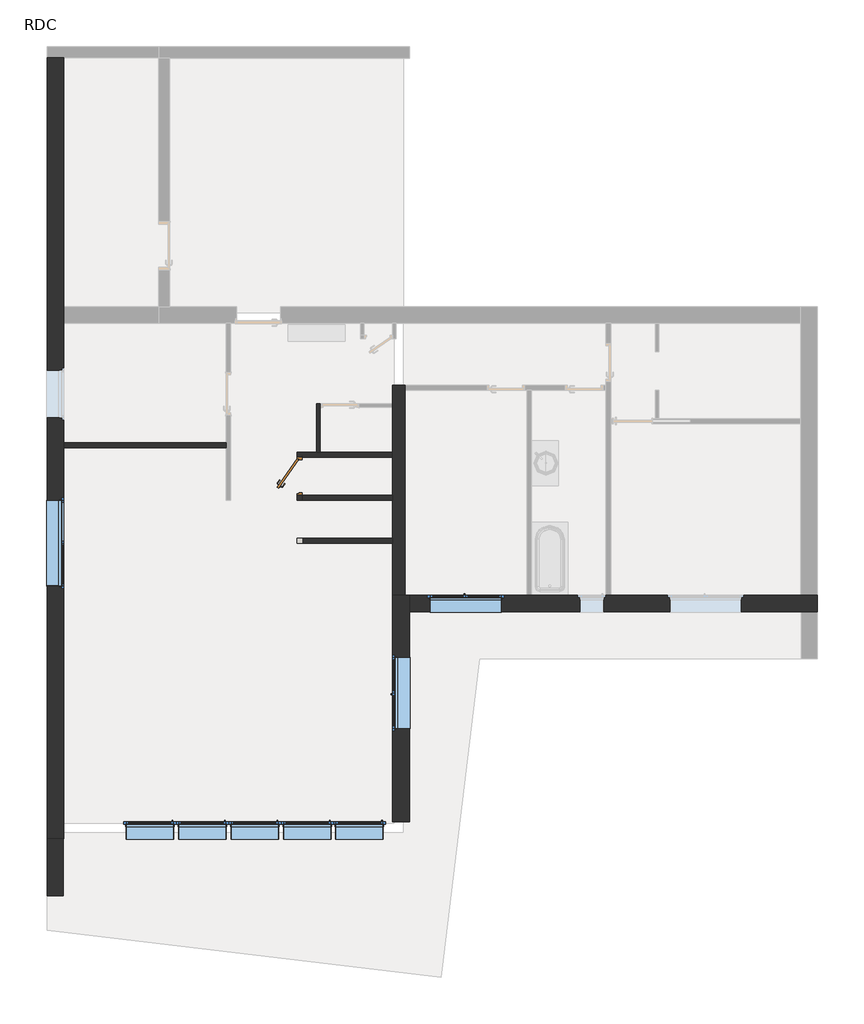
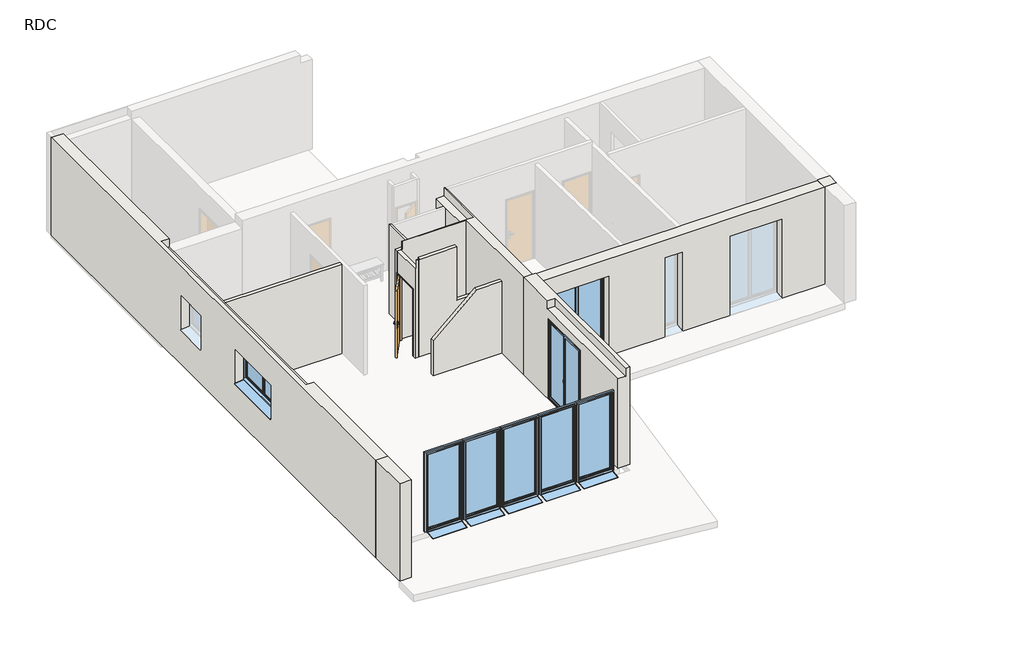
# One storey, part 1 of 2: 11 walls, 8 windows, 1 door.
"""IFC4 building model written with IfcOpenShell, lengths in millimetres."""

from ifc_helpers import new_model, si_unit, frame, origin, origin_with_axes, place, context, project, spatial, polyline, outline, extrude, faceted_brep, transform, mapped, element, save
from components import int_simple_pp_0_73m_x_2_04m_0155da5d, window_1_00m_x_2_40m_46732dcd, window_1_50m_x_2_40m_e69f112c, window_1_80m_x_1_00m_00121215

model = new_model("IFC4")

# Units and contexts
model_context = context("Model", 3, world=origin())
ifc_project = project(units=[si_unit("LENGTHUNIT", "METRE", prefix="MILLI")], contexts=[model_context])

# Site, building, storey
site = spatial("IfcSite", under=ifc_project)
building = spatial("IfcBuilding", under=site)
storey = spatial("IfcBuildingStorey", under=building, Name="RDC", Elevation=0.0)

# Door
placement = place(None, origin())
int_simple_pp_0_73m_x_2_04m_shape = int_simple_pp_0_73m_x_2_04m_0155da5d(model_context)
element("IfcDoor", 1, ObjectType="Int. Simple : PP (0.73m x 2.04m)", at=placement, inside=storey, context=model_context, shape_type="MappedRepresentation", body=[
    mapped(int_simple_pp_0_73m_x_2_04m_shape, transform((-2669.1256089, -1110.1038978, 0.0), x_axis=(0.0, 1.0, 0.0), y_axis=(-1.0, 0.0, 0.0), z_axis=(0.0, 0.0, 1.0))),
])

# Walls
element("IfcWall", 2, ObjectType="Ext. Bardage Métal + Isolant + Béton + Finition", at=placement, inside=storey, context=model_context, shape_type="Brep", body=[
    faceted_brep([(-7956.697342, 7624.9574199, 0.0), (-7956.697342, -8735.0425801, 0.0), (-7956.697342, -8735.0425801, 3000.0), (-7956.697342, 7624.9574199, 3000.0), (-7956.697342, 79.9267611, 2100.0), (-7956.697342, 79.9267611, 1056.6218565), (-7956.697342, 1079.9267611, 1056.6218565), (-7956.697342, 1079.9267611, 2100.0), (-7956.697342, -3445.1038978, 2100.0), (-7956.697342, -3445.1038978, 1056.6218565), (-7956.697342, -1645.1038978, 1056.6218565), (-7956.697342, -1645.1038978, 2100.0), (-7606.697342, -8735.0425801, 0.0), (-7606.697342, -8385.0425801, 0.0), (-7606.697342, -545.0425801, 0.0), (-7606.697342, -445.0425801, 0.0), (-7606.697342, 2054.9574199, 0.0), (-7606.697342, 2404.9574199, 0.0), (-7606.697342, 7624.9574199, 0.0), (-7606.697342, 7624.9574199, 3000.0), (-7606.697342, 2284.9574199, 3000.0), (-7606.697342, 2284.9574199, 2750.0), (-7606.697342, 2054.9574199, 2750.0), (-7606.697342, -445.0425801, 2750.0), (-7606.697342, -545.0425801, 2750.0), (-7606.697342, -4992.0425801, 2750.0), (-7606.697342, -4992.0425801, 3000.0), (-7606.697342, -8385.0425801, 3000.0), (-7606.697342, -8735.0425801, 3000.0), (-7606.697342, 1129.9267611, 1100.0), (-7606.697342, 29.9267611, 1100.0), (-7606.697342, 29.9267611, 2150.0), (-7606.697342, 1129.9267611, 2150.0), (-7606.697342, -1595.1038978, 1100.0), (-7606.697342, -3495.1038978, 1100.0), (-7606.697342, -3495.1038978, 2150.0), (-7606.697342, -1595.1038978, 2150.0), (-7616.697342, -8735.0425801, 0.0), (-7616.697342, -8735.0425801, 3000.0), (-7836.697342, -4992.0425801, 3000.0), (-7836.697342, 2284.9574199, 3000.0), (-7836.697342, 7624.9574199, 3000.0), (-7836.697342, 2284.9574199, 2750.0), (-7836.697342, -4992.0425801, 2750.0), (-7686.697342, 79.9267611, 1100.0), (-7686.697342, 79.9267611, 1085.0), (-7706.697342, 79.9267611, 2100.0), (-7706.697342, 79.9267611, 1100.0), (-7686.697342, 1079.9267611, 1085.0), (-7686.697342, 1079.9267611, 1100.0), (-7706.697342, 1079.9267611, 1100.0), (-7706.697342, 1079.9267611, 2100.0), (-7706.697342, 69.9267611, 1100.0), (-7656.697342, 69.9267611, 1100.0), (-7656.697342, 29.9267611, 1100.0), (-7656.697342, 1129.9267611, 1100.0), (-7656.697342, 1089.9267611, 1100.0), (-7706.697342, 1089.9267611, 1100.0), (-7656.697342, 29.9267611, 2150.0), (-7656.697342, 69.9267611, 2110.0), (-7656.697342, 1089.9267611, 2110.0), (-7656.697342, 1129.9267611, 2150.0), (-7706.697342, 69.9267611, 2110.0), (-7706.697342, 1089.9267611, 2110.0), (-7686.697342, -3445.1038978, 1100.0), (-7686.697342, -3445.1038978, 1085.0), (-7706.697342, -3445.1038978, 2100.0), (-7706.697342, -3445.1038978, 1100.0), (-7686.697342, -1645.1038978, 1085.0), (-7686.697342, -1645.1038978, 1100.0), (-7706.697342, -1645.1038978, 1100.0), (-7706.697342, -1645.1038978, 2100.0), (-7706.697342, -3455.1038978, 1100.0), (-7656.697342, -3455.1038978, 1100.0), (-7656.697342, -3495.1038978, 1100.0), (-7656.697342, -1595.1038978, 1100.0), (-7656.697342, -1635.1038978, 1100.0), (-7706.697342, -1635.1038978, 1100.0), (-7656.697342, -3495.1038978, 2150.0), (-7656.697342, -3455.1038978, 2110.0), (-7656.697342, -1635.1038978, 2110.0), (-7656.697342, -1595.1038978, 2150.0), (-7706.697342, -3455.1038978, 2110.0), (-7706.697342, -1635.1038978, 2110.0)], [[[0, 1, 2, 3], [4, 5, 6, 7], [8, 9, 10, 11]], [[12, 13, 14, 15, 16, 17, 18, 19, 20, 21, 22, 23, 24, 25, 26, 27, 28], [29, 30, 31, 32], [33, 34, 35, 36]], [[1, 0, 18, 17, 16, 15, 14, 13, 12, 37]], [[3, 2, 38, 28, 27, 26, 39, 40, 20, 19, 41]], [[42, 43, 25, 24, 23, 22, 21]], [[43, 42, 40, 39]], [[43, 39, 26, 25]], [[40, 42, 21, 20]], [[0, 3, 41, 19, 18]], [[2, 1, 37, 12, 28, 38]], [[44, 45, 5, 4, 46, 47]], [[48, 49, 50, 51, 7, 6]], [[5, 45, 48, 6]], [[45, 44, 49, 48]], [[46, 4, 7, 51]], [[44, 47, 52, 53, 54, 30, 29, 55, 56, 57, 50, 49]], [[30, 54, 58, 31]], [[54, 53, 59, 60, 56, 55, 61, 58]], [[53, 52, 62, 59]], [[47, 46, 51, 50, 57, 63, 62, 52]], [[31, 58, 61, 32]], [[60, 59, 62, 63]], [[55, 29, 32, 61]], [[57, 56, 60, 63]], [[64, 65, 9, 8, 66, 67]], [[68, 69, 70, 71, 11, 10]], [[9, 65, 68, 10]], [[65, 64, 69, 68]], [[66, 8, 11, 71]], [[64, 67, 72, 73, 74, 34, 33, 75, 76, 77, 70, 69]], [[34, 74, 78, 35]], [[74, 73, 79, 80, 76, 75, 81, 78]], [[73, 72, 82, 79]], [[67, 66, 71, 70, 77, 83, 82, 72]], [[35, 78, 81, 36]], [[80, 79, 82, 83]], [[75, 33, 36, 81]], [[77, 76, 80, 83]]]),
])
element("IfcWall", 3, ObjectType="Ext. Bardage Bois + Isolant + Béton + Finition", at=placement, inside=storey, context=model_context, shape_type="Brep", body=[
    faceted_brep([(-366.697342, -8385.0425801, 0.0), (-366.697342, -3985.0425801, 0.0), (-366.697342, -3635.0425801, 0.0), (-366.697342, -3635.0425801, 2975.3587736), (-366.697342, -3635.0425801, 3000.0), (-366.697342, -8385.0425801, 3000.0), (-366.697342, -4935.0425801, 2435.0), (-366.697342, -4935.0425801, 6.6218565), (-366.697342, -6435.0425801, 6.6218565), (-366.697342, -6435.0425801, 2435.0), (-716.697342, -3635.0425801, 0.0), (-716.697342, -8385.0425801, 0.0), (-716.697342, -8385.0425801, 2750.0), (-716.697342, -4831.0425801, 2750.0), (-716.697342, -4831.0425801, 3000.0), (-716.697342, -3635.0425801, 3000.0), (-716.697342, -6485.0425801, 35.0), (-716.697342, -4885.0425801, 35.0), (-716.697342, -4885.0425801, 2485.0), (-716.697342, -6485.0425801, 2485.0), (-456.697342, -3635.0425801, 0.0), (-456.697342, -3635.0425801, 3000.0), (-486.697342, -4831.0425801, 3000.0), (-486.697342, -8385.0425801, 3000.0), (-486.697342, -8385.0425801, 2750.0), (-636.697342, -4935.0425801, 35.0), (-616.697342, -4935.0425801, 2435.0), (-616.697342, -4935.0425801, 35.0), (-636.697342, -6435.0425801, 35.0), (-616.697342, -6435.0425801, 35.0), (-616.697342, -6435.0425801, 2435.0), (-616.697342, -4925.0425801, 35.0), (-666.697342, -4925.0425801, 35.0), (-666.697342, -4885.0425801, 35.0), (-666.697342, -6485.0425801, 35.0), (-666.697342, -6445.0425801, 35.0), (-616.697342, -6445.0425801, 35.0), (-666.697342, -4885.0425801, 2485.0), (-666.697342, -4925.0425801, 2445.0), (-666.697342, -6445.0425801, 2445.0), (-666.697342, -6485.0425801, 2485.0), (-616.697342, -4925.0425801, 2445.0), (-616.697342, -6445.0425801, 2445.0), (-486.697342, -4831.0425801, 2750.0)], [[[0, 1, 2, 3, 4, 5], [6, 7, 8, 9]], [[10, 11, 12, 13, 14, 15], [16, 17, 18, 19]], [[2, 1, 0, 11, 10, 20]], [[5, 4, 21, 15, 14, 22, 23]], [[0, 5, 23, 24, 12, 11]], [[4, 3, 2, 20, 10, 15, 21]], [[25, 7, 6, 26, 27]], [[8, 28, 29, 30, 9]], [[7, 25, 28, 8]], [[26, 6, 9, 30]], [[25, 27, 31, 32, 33, 17, 16, 34, 35, 36, 29, 28]], [[17, 33, 37, 18]], [[33, 32, 38, 39, 35, 34, 40, 37]], [[32, 31, 41, 38]], [[27, 26, 30, 29, 36, 42, 41, 31]], [[18, 37, 40, 19]], [[39, 38, 41, 42]], [[34, 16, 19, 40]], [[36, 35, 39, 42]], [[24, 43, 13, 12]], [[22, 43, 24, 23]], [[43, 22, 14, 13]]]),
])
element("IfcWall", 4, ObjectType="Ext. Bardage Métal + Isolant + Béton + Finition", at=placement, inside=storey, context=model_context, shape_type="Brep", body=[
    faceted_brep([(-366.697342, -3985.0425801, 0.0), (7843.302658, -3985.0425801, 0.0), (8183.302658, -3985.0425801, 0.0), (8183.302658, -3985.0425801, 3000.0), (7843.302658, -3985.0425801, 3000.0), (7833.302658, -3985.0425801, 3000.0), (7833.302658, -3985.0425801, 2982.3587736), (-366.697342, -3985.0425801, 2982.3587736), (1563.302658, -3985.0425801, 2435.0), (1563.302658, -3985.0425801, 6.6218565), (63.302658, -3985.0425801, 6.6218565), (63.302658, -3985.0425801, 2435.0), (6593.802658, -3985.0425801, 2435.0), (6593.802658, -3985.0425801, 6.6218565), (5093.802658, -3985.0425801, 6.6218565), (5093.802658, -3985.0425801, 2435.0), (3704.302658, -3985.0425801, 2435.0), (3704.302658, -3985.0425801, 6.6218565), (3204.302658, -3985.0425801, 6.6218565), (3204.302658, -3985.0425801, 2435.0), (-366.697342, -3635.0425801, 0.0), (-366.697342, -3635.0425801, 2975.3587736), (2094.302658, -3635.0425801, 2975.3587736), (2194.302658, -3635.0425801, 2975.3587736), (3754.302658, -3635.0425801, 2975.3587736), (3854.302658, -3635.0425801, 2975.3587736), (7833.302658, -3635.0425801, 2975.3587736), (7833.302658, -3635.0425801, 3000.0), (8183.302658, -3635.0425801, 3000.0), (8183.302658, -3635.0425801, 0.0), (7833.302658, -3635.0425801, 0.0), (3854.302658, -3635.0425801, 0.0), (3754.302658, -3635.0425801, 0.0), (2194.302658, -3635.0425801, 0.0), (2094.302658, -3635.0425801, 0.0), (13.302658, -3635.0425801, 35.0), (1613.302658, -3635.0425801, 35.0), (1613.302658, -3635.0425801, 2485.0), (13.302658, -3635.0425801, 2485.0), (5043.802658, -3635.0425801, 35.0), (6643.802658, -3635.0425801, 35.0), (6643.802658, -3635.0425801, 2485.0), (5043.802658, -3635.0425801, 2485.0), (3154.302658, -3635.0425801, 35.0), (3754.302658, -3635.0425801, 35.0), (3754.302658, -3635.0425801, 2485.0), (3154.302658, -3635.0425801, 2485.0), (1563.302658, -3715.0425801, 35.0), (1563.302658, -3735.0425801, 2435.0), (1563.302658, -3735.0425801, 35.0), (63.302658, -3715.0425801, 35.0), (63.302658, -3735.0425801, 35.0), (63.302658, -3735.0425801, 2435.0), (1573.302658, -3735.0425801, 35.0), (1573.302658, -3685.0425801, 35.0), (1613.302658, -3685.0425801, 35.0), (13.302658, -3685.0425801, 35.0), (53.302658, -3685.0425801, 35.0), (53.302658, -3735.0425801, 35.0), (1613.302658, -3685.0425801, 2485.0), (1573.302658, -3685.0425801, 2445.0), (53.302658, -3685.0425801, 2445.0), (13.302658, -3685.0425801, 2485.0), (1573.302658, -3735.0425801, 2445.0), (53.302658, -3735.0425801, 2445.0), (6593.802658, -3715.0425801, 35.0), (6593.802658, -3735.0425801, 2435.0), (6593.802658, -3735.0425801, 35.0), (5093.802658, -3715.0425801, 35.0), (5093.802658, -3735.0425801, 35.0), (5093.802658, -3735.0425801, 2435.0), (6603.802658, -3735.0425801, 35.0), (6603.802658, -3685.0425801, 35.0), (6643.802658, -3685.0425801, 35.0), (5043.802658, -3685.0425801, 35.0), (5083.802658, -3685.0425801, 35.0), (5083.802658, -3735.0425801, 35.0), (6643.802658, -3685.0425801, 2485.0), (6603.802658, -3685.0425801, 2445.0), (5083.802658, -3685.0425801, 2445.0), (5043.802658, -3685.0425801, 2485.0), (6603.802658, -3735.0425801, 2445.0), (5083.802658, -3735.0425801, 2445.0), (3704.302658, -3715.0425801, 35.0), (3704.302658, -3735.0425801, 2435.0), (3704.302658, -3735.0425801, 35.0), (3204.302658, -3715.0425801, 35.0), (3204.302658, -3735.0425801, 35.0), (3204.302658, -3735.0425801, 2435.0), (3714.302658, -3735.0425801, 35.0), (3714.302658, -3685.0425801, 35.0), (3754.302658, -3685.0425801, 35.0), (3154.302658, -3685.0425801, 35.0), (3194.302658, -3685.0425801, 35.0), (3194.302658, -3735.0425801, 35.0), (3754.302658, -3685.0425801, 2485.0), (3714.302658, -3685.0425801, 2445.0), (3194.302658, -3685.0425801, 2445.0), (3154.302658, -3685.0425801, 2485.0), (3714.302658, -3735.0425801, 2445.0), (3194.302658, -3735.0425801, 2445.0)], [[[0, 1, 2, 3, 4, 5, 6, 7], [8, 9, 10, 11], [12, 13, 14, 15], [16, 17, 18, 19]], [[20, 21, 22, 23, 24, 25, 26, 27, 28, 29, 30, 31, 32, 33, 34], [35, 36, 37, 38], [39, 40, 41, 42], [43, 44, 45, 46]], [[2, 1, 0, 20, 34, 33, 32, 31, 30, 29]], [[0, 7, 21, 20]], [[3, 2, 29, 28]], [[47, 9, 8, 48, 49]], [[10, 50, 51, 52, 11]], [[47, 50, 10, 9]], [[8, 11, 52, 48]], [[50, 47, 49, 53, 54, 55, 36, 35, 56, 57, 58, 51]], [[36, 55, 59, 37]], [[55, 54, 60, 61, 57, 56, 62, 59]], [[54, 53, 63, 60]], [[53, 49, 48, 52, 51, 58, 64, 63]], [[37, 59, 62, 38]], [[61, 60, 63, 64]], [[62, 56, 35, 38]], [[57, 61, 64, 58]], [[65, 13, 12, 66, 67]], [[14, 68, 69, 70, 15]], [[65, 68, 14, 13]], [[12, 15, 70, 66]], [[68, 65, 67, 71, 72, 73, 40, 39, 74, 75, 76, 69]], [[40, 73, 77, 41]], [[73, 72, 78, 79, 75, 74, 80, 77]], [[72, 71, 81, 78]], [[71, 67, 66, 70, 69, 76, 82, 81]], [[41, 77, 80, 42]], [[79, 78, 81, 82]], [[80, 74, 39, 42]], [[75, 79, 82, 76]], [[83, 17, 16, 84, 85]], [[18, 86, 87, 88, 19]], [[83, 86, 18, 17]], [[16, 19, 88, 84]], [[86, 83, 85, 89, 90, 91, 44, 43, 92, 93, 94, 87]], [[44, 91, 95, 45]], [[91, 90, 96, 97, 93, 92, 98, 95]], [[90, 89, 99, 96]], [[89, 85, 84, 88, 87, 94, 100, 99]], [[45, 95, 98, 46]], [[97, 96, 99, 100]], [[98, 92, 43, 46]], [[93, 97, 100, 94]], [[5, 4, 3, 28, 27]], [[5, 27, 26, 6]], [[7, 6, 26, 25, 24, 23, 22, 21]]]),
])
element("IfcWall", 5, ObjectType="Int. Plâtre 100 mm", at=placement, inside=storey, context=model_context, shape_type="SweptSolid", body=[
    extrude(outline(polyline([(-4211.697342, -545.0425801), (-7606.697342, -545.0425801), (-7606.697342, -445.0425801), (-4211.697342, -445.0425801), (-4211.697342, -545.0425801)])), origin_with_axes(), (0.0, 0.0, 1.0), 2750.0),
])
element("IfcWall", 6, ObjectType="Int. Plâtre 100 mm", at=placement, inside=storey, context=model_context, shape_type="Brep", body=[
    faceted_brep([(-716.697342, -645.1038978, 0.0), (-2241.697342, -645.1038978, 0.0), (-2313.697342, -645.1038978, 0.0), (-2719.1256089, -645.1038978, 0.0), (-2719.1256089, -645.1038978, 2750.0), (-2313.697342, -645.1038978, 2750.0), (-2241.697342, -645.1038978, 2750.0), (-716.697342, -645.1038978, 2750.0), (-2719.1256089, -745.1038978, 0.0), (-716.697342, -745.1038978, 0.0), (-716.697342, -745.1038978, 3000.0), (-2577.5004576, -745.1038978, 3000.0), (-2577.5004576, -745.1038978, 2750.0), (-2619.1256089, -745.1038978, 2750.0), (-2719.1256089, -745.1038978, 2750.0), (-2719.1256089, -745.1038978, 2075.0), (-716.697342, -732.1038978, 3000.0), (-2577.5004576, -732.1038978, 3000.0), (-716.697342, -732.1038978, 2750.0), (-2577.5004576, -732.1038978, 2750.0)], [[[0, 1, 2, 3, 4, 5, 6, 7]], [[8, 9, 10, 11, 12, 13, 14, 15]], [[3, 2, 1, 0, 9, 8]], [[11, 10, 16, 17]], [[3, 8, 15, 14, 4]], [[10, 9, 0, 7, 18, 16]], [[12, 19, 18, 7, 6, 5, 4, 14, 13]], [[19, 17, 16, 18]], [[17, 19, 12, 11]]]),
])
element("IfcWall", 7, ObjectType="Int. Plâtre 100 mm", at=placement, inside=storey, context=model_context, shape_type="Brep", body=[
    faceted_brep([(-2719.1256089, -1545.1038978, 0.0), (-2719.1256089, -1645.1038978, 0.0), (-2719.1256089, -1645.1038978, 2750.0), (-2719.1256089, -745.1038978, 2750.0), (-2719.1256089, -745.1038978, 2075.0), (-2719.1256089, -1545.1038978, 2075.0), (-2619.1256089, -1645.1038978, 3000.0), (-2619.1256089, -1645.1038978, 0.0), (-2619.1256089, -1545.1038978, 0.0), (-2619.1256089, -1545.1038978, 2075.0), (-2619.1256089, -745.1038978, 2075.0), (-2619.1256089, -745.1038978, 2750.0), (-2619.1256089, -1632.1038978, 2750.0), (-2619.1256089, -1632.1038978, 3000.0), (-2682.3224934, -1632.1038978, 3000.0), (-2682.3224934, -1645.1038978, 3000.0), (-2682.3224934, -1645.1038978, 2750.0), (-2682.3224934, -1632.1038978, 2750.0)], [[[0, 1, 2, 3, 4, 5]], [[6, 7, 8, 9, 10, 11, 12, 13]], [[7, 1, 0, 8]], [[6, 13, 14, 15]], [[10, 4, 3, 11]], [[1, 7, 6, 15, 16, 2]], [[16, 17, 12, 11, 3, 2]], [[17, 14, 13, 12]], [[14, 17, 16, 15]], [[9, 5, 4, 10]], [[5, 9, 8, 0]]]),
])
element("IfcWall", 8, ObjectType="Int. Plâtre 100 mm", at=placement, inside=storey, context=model_context, shape_type="Brep", body=[
    faceted_brep([(-2619.1256089, -1645.1038978, 0.0), (-716.697342, -1645.1038978, 0.0), (-716.697342, -1645.1038978, 1360.0), (-1515.8753062, -1645.1038978, 1360.0), (-1515.8753062, -1645.1038978, 3000.0), (-2619.1256089, -1645.1038978, 3000.0), (-716.697342, -1545.1038978, 0.0), (-2619.1256089, -1545.1038978, 0.0), (-2619.1256089, -1545.1038978, 2075.0), (-2619.1256089, -1545.1038978, 2750.0), (-2577.5004576, -1545.1038978, 2750.0), (-2577.5004576, -1545.1038978, 3000.0), (-1515.8753062, -1545.1038978, 3000.0), (-1515.8753062, -1545.1038978, 1360.0), (-716.697342, -1545.1038978, 1360.0), (-2619.1256089, -1632.1038978, 3000.0), (-2619.1256089, -1632.1038978, 2750.0), (-2577.5004576, -1632.1038978, 3000.0), (-2577.5004576, -1632.1038978, 2750.0)], [[[0, 1, 2, 3, 4, 5]], [[6, 7, 8, 9, 10, 11, 12, 13, 14]], [[0, 5, 15, 16, 9, 8, 7]], [[2, 1, 6, 14]], [[1, 0, 7, 6]], [[5, 4, 12, 11, 17, 15]], [[3, 2, 14, 13]], [[4, 3, 13, 12]], [[16, 18, 10, 9]], [[18, 17, 11, 10]], [[17, 18, 16, 15]]]),
])
element("IfcWall", 9, ObjectType="Int. Plâtre 70 mm", at=placement, inside=storey, context=model_context, shape_type="Brep", body=[
    faceted_brep([(-2241.697342, -645.1038978, 0.0), (-2241.697342, 299.8961022, 0.0), (-2241.697342, 371.8961022, 0.0), (-2241.697342, 371.8961022, 2750.0), (-2241.697342, 299.8961022, 2750.0), (-2241.697342, -645.1038978, 2750.0), (-2313.697342, -645.1038978, 0.0), (-2313.697342, -645.1038978, 2750.0), (-2313.697342, 371.8961022, 2750.0), (-2313.697342, 371.8961022, 0.0)], [[[0, 1, 2, 3, 4, 5]], [[6, 7, 8, 9]], [[2, 1, 0, 6, 9]], [[0, 5, 7, 6]], [[3, 2, 9, 8]], [[5, 4, 3, 8, 7]]]),
])
element("IfcWall", 10, ObjectType="Int. Béton + Finition", at=placement, inside=storey, context=model_context, shape_type="Brep", body=[
    faceted_brep([(-716.697342, 757.8961022, 0.0), (-716.697342, 371.8961022, 0.0), (-716.697342, 299.8961022, 0.0), (-716.697342, -645.1038978, 0.0), (-716.697342, -745.1038978, 0.0), (-716.697342, -1545.1038978, 0.0), (-716.697342, -1645.1038978, 0.0), (-716.697342, -2445.1038978, 0.0), (-716.697342, -2545.1038978, 0.0), (-716.697342, -3635.0425801, 0.0), (-716.697342, -3635.0425801, 3000.0), (-716.697342, -745.1038978, 3000.0), (-716.697342, -732.1038978, 3000.0), (-716.697342, -732.1038978, 2750.0), (-716.697342, -645.1038978, 2750.0), (-716.697342, 299.8961022, 2750.0), (-716.697342, 371.8961022, 2750.0), (-716.697342, 757.8961022, 2750.0), (-456.697342, -3635.0425801, 0.0), (-456.697342, 657.8961022, 0.0), (-456.697342, 757.8961022, 0.0), (-456.697342, 757.8961022, 3000.0), (-456.697342, 657.8961022, 3000.0), (-456.697342, -3635.0425801, 3000.0), (-486.697342, 757.8961022, 3000.0), (-486.697342, -732.1038978, 3000.0), (-486.697342, 757.8961022, 2750.0), (-486.697342, -732.1038978, 2750.0)], [[[0, 1, 2, 3, 4, 5, 6, 7, 8, 9, 10, 11, 12, 13, 14, 15, 16, 17]], [[18, 19, 20, 21, 22, 23]], [[9, 8, 7, 6, 5, 4, 3, 2, 1, 0, 20, 19, 18]], [[23, 22, 21, 24, 25, 12, 11, 10]], [[21, 20, 0, 17, 26, 24]], [[10, 9, 18, 23]], [[13, 27, 26, 17, 16, 15, 14]], [[27, 25, 24, 26]], [[25, 27, 13, 12]]]),
])
element("IfcWall", 11, ObjectType="Int. Plâtre 100 mm", at=placement, inside=storey, context=model_context, shape_type="SweptSolid", body=[
    extrude(outline(polyline([(0.0, -716.697342), (2212.5, -716.697342), (2212.5, -1446.8453117), (1087.5, -2719.1256089), (0.0, -2719.1256089), (0.0, -716.697342)])), frame((0.0, -2545.1038978, 0.0), z_axis=(0.0, 1.0, 0.0), x_axis=(0.0, 0.0, 1.0)), (0.0, 0.0, 1.0), 100.0),
])
element("IfcWall", 12, ObjectType="Ext. Bardage Métal + Isolant + Béton + Bardage Bois", at=placement, inside=storey, context=model_context, shape_type="SweptSolid", body=[
    extrude(outline(polyline([(-7956.697342, -9932.1038978), (-7956.697342, -8735.0425801), (-7616.697342, -8735.0425801), (-7616.697342, -9932.1038978), (-7956.697342, -9932.1038978)])), origin_with_axes(), (0.0, 0.0, 1.0), 3000.0),
])

# Windows
window_1_00m_x_2_40m_shape = window_1_00m_x_2_40m_46732dcd(model_context)
element("IfcWindow", 13, ObjectType="PF 1 Vantail - Droite : 1.00m x 2.40m", at=placement, inside=storey, context=model_context, shape_type="MappedRepresentation", body=[
    mapped(window_1_00m_x_2_40m_shape, transform((-5806.697342, -8560.0425801, 0.0), x_axis=(-1.0, 0.0, 0.0), y_axis=(0.0, -1.0, 0.0), z_axis=(0.0, 0.0, 1.0))),
])
element("IfcWindow", 14, ObjectType="PF 1 Vantail - Droite : 1.00m x 2.40m", at=placement, inside=storey, context=model_context, shape_type="MappedRepresentation", body=[
    mapped(window_1_00m_x_2_40m_shape, transform((-4706.697342, -8560.0425801, 0.0), x_axis=(-1.0, 0.0, 0.0), y_axis=(0.0, -1.0, 0.0), z_axis=(0.0, 0.0, 1.0))),
])
element("IfcWindow", 15, ObjectType="PF 1 Vantail - Droite : 1.00m x 2.40m", at=placement, inside=storey, context=model_context, shape_type="MappedRepresentation", body=[
    mapped(window_1_00m_x_2_40m_shape, transform((-3606.697342, -8560.0425801, 0.0), x_axis=(-1.0, 0.0, 0.0), y_axis=(0.0, -1.0, 0.0), z_axis=(0.0, 0.0, 1.0))),
])
element("IfcWindow", 16, ObjectType="PF 1 Vantail - Droite : 1.00m x 2.40m", at=placement, inside=storey, context=model_context, shape_type="MappedRepresentation", body=[
    mapped(window_1_00m_x_2_40m_shape, transform((-2506.697342, -8560.0425801, 0.0), x_axis=(-1.0, 0.0, 0.0), y_axis=(0.0, -1.0, 0.0), z_axis=(0.0, 0.0, 1.0))),
])
element("IfcWindow", 17, ObjectType="PF 1 Vantail - Droite : 1.00m x 2.40m", at=placement, inside=storey, context=model_context, shape_type="MappedRepresentation", body=[
    mapped(window_1_00m_x_2_40m_shape, transform((-1416.697342, -8560.0425801, 0.0), x_axis=(-1.0, 0.0, 0.0), y_axis=(0.0, -1.0, 0.0), z_axis=(0.0, 0.0, 1.0))),
])
window_1_50m_x_2_40m_shape = window_1_50m_x_2_40m_e69f112c(model_context)
element("IfcWindow", 18, ObjectType="PF 2 Vantaux - Droits : 1.50m x 2.40m", at=placement, inside=storey, context=model_context, shape_type="MappedRepresentation", body=[
    mapped(window_1_50m_x_2_40m_shape, transform((813.302658, -3810.0425801, 0.0), x_axis=(-1.0, 0.0, 0.0), y_axis=(0.0, -1.0, 0.0), z_axis=(0.0, 0.0, 1.0))),
])
element("IfcWindow", 19, ObjectType="PF 2 Vantaux - Droits : 1.50m x 2.40m", at=placement, inside=storey, context=model_context, shape_type="MappedRepresentation", body=[
    mapped(window_1_50m_x_2_40m_shape, transform((-541.697342, -5685.0425801, 0.0), x_axis=(0.0, -1.0, 0.0), y_axis=(1.0, 0.0, 0.0), z_axis=(0.0, 0.0, 1.0))),
])
window_1_80m_x_1_00m_shape = window_1_80m_x_1_00m_00121215(model_context)
element("IfcWindow", 20, ObjectType="2 Vantaux - Droits : 1.80m x 1.00m", at=placement, inside=storey, context=model_context, shape_type="MappedRepresentation", body=[
    mapped(window_1_80m_x_1_00m_shape, transform((-7781.697342, -2545.1038978, 300.0), x_axis=(0.0, 1.0, 0.0), y_axis=(-1.0, 0.0, 0.0), z_axis=(0.0, 0.0, 1.0))),
])

save(model, "model.ifc")
